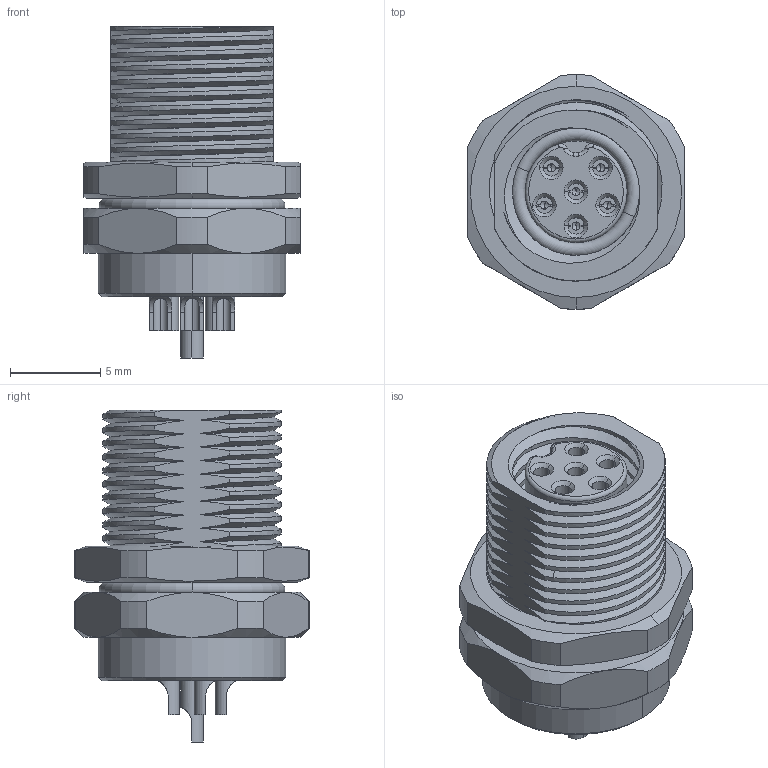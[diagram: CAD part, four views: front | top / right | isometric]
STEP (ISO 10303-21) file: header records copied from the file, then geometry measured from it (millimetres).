
FILE_DESCRIPTION((''),'2;1');
FILE_NAME('WP-06F2-58-11-1','2021-03-05T14:25:19',('rd1'),(''),'CREO PARAMETRIC BY PTC INC, 2019010','CREO PARAMETRIC BY PTC INC, 2019010','');
FILE_SCHEMA(('CONFIG_CONTROL_DESIGN'));
Length unit declared in the file: millimetre
Products named in the file (1): WP-06F2-58-11-1
Bounding box: 12 x 13 x 18.4 mm (x, y, z)
Volume: 1153.1 mm3; surface area: 2245.3 mm2
Topology: 2 solids, 15 shells, 512 faces, 1404 edges, 924 vertices
Faces by surface type: cylinder 189, plane 133, bspline 96, cone 82, torus 12
Entity records: 24872 total; most frequent: CARTESIAN_POINT 12630, ORIENTED_EDGE 2760, DIRECTION 2235, EDGE_CURVE 1380, VERTEX_POINT 924, AXIS2_PLACEMENT_3D 917, EDGE_LOOP 574, FACE_OUTER_BOUND 512
